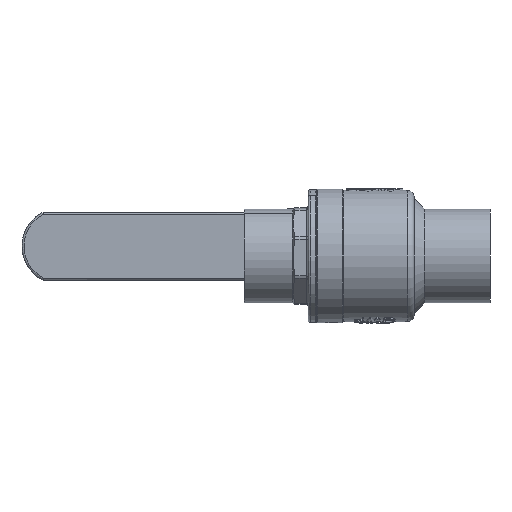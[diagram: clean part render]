
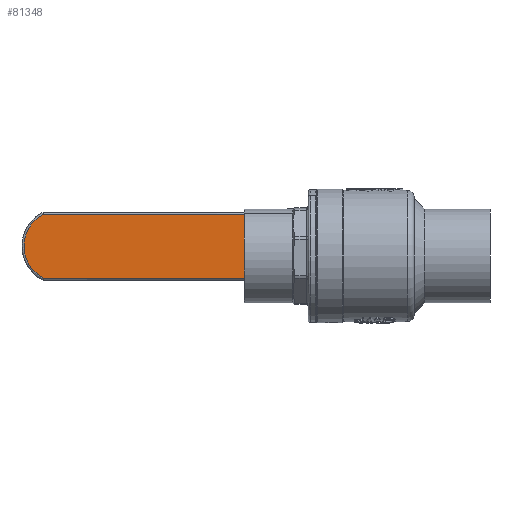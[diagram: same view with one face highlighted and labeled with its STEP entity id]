
A CAD part, front view. The second image highlights one B-rep face of the part: STEP entity #81348.
In plain terms, the highlighted planar face has unit normal (0, -1, 0).
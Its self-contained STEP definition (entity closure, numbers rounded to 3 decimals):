
#372 = LINE ( 'NONE', #114138, #88254 ) ;
#488 = PLANE ( 'NONE',  #64359 ) ;
#2815 = CARTESIAN_POINT ( 'NONE',  ( -115.628, -5., 16.45 ) ) ;
#6201 = LINE ( 'NONE', #100679, #12048 ) ;
#10626 = VERTEX_POINT ( 'NONE', #23178 ) ;
#12048 = VECTOR ( 'NONE', #120826, 1000. ) ;
#15722 = CARTESIAN_POINT ( 'NONE',  ( -115.128, -5., -16.45 ) ) ;
#19306 = CARTESIAN_POINT ( 'NONE',  ( -115.628, -5., 16.45 ) ) ;
#22359 = CIRCLE ( 'NONE', #94146, 18.5 ) ;
#23178 = CARTESIAN_POINT ( 'NONE',  ( -10.036, -5., -16.45 ) ) ;
#23257 = DIRECTION ( 'NONE',  ( -1., 0., 0. ) ) ;
#25514 = LINE ( 'NONE', #2815, #71022 ) ;
#29969 = DIRECTION ( 'NONE',  ( 0., 0., 1. ) ) ;
#30215 = DIRECTION ( 'NONE',  ( 1., 0., 0. ) ) ;
#32758 = ORIENTED_EDGE ( 'NONE', *, *, #96861, .T. ) ;
#32993 = EDGE_CURVE ( 'NONE', #10626, #93374, #22359, .T. ) ;
#51954 = VERTEX_POINT ( 'NONE', #15722 ) ;
#51961 = ORIENTED_EDGE ( 'NONE', *, *, #82984, .T. ) ;
#56514 = ORIENTED_EDGE ( 'NONE', *, *, #32993, .T. ) ;
#64359 = AXIS2_PLACEMENT_3D ( 'NONE', #19306, #120966, #112284 ) ;
#66004 = CARTESIAN_POINT ( 'NONE',  ( -18.5, -5., 0. ) ) ;
#67606 = DIRECTION ( 'NONE',  ( 0., -1., 0. ) ) ;
#71022 = VECTOR ( 'NONE', #23257, 1000. ) ;
#78391 = FACE_OUTER_BOUND ( 'NONE', #116385, .T. ) ;
#81348 = ADVANCED_FACE ( 'NONE', ( #78391 ), #488, .F. ) ;
#82984 = EDGE_CURVE ( 'NONE', #93374, #92162, #25514, .T. ) ;
#88254 = VECTOR ( 'NONE', #30215, 1000. ) ;
#92162 = VERTEX_POINT ( 'NONE', #104399 ) ;
#93374 = VERTEX_POINT ( 'NONE', #121612 ) ;
#94146 = AXIS2_PLACEMENT_3D ( 'NONE', #66004, #67606, #29969 ) ;
#96861 = EDGE_CURVE ( 'NONE', #92162, #51954, #6201, .T. ) ;
#97249 = ORIENTED_EDGE ( 'NONE', *, *, #116100, .T. ) ;
#100679 = CARTESIAN_POINT ( 'NONE',  ( -115.128, -5., 16.45 ) ) ;
#104399 = CARTESIAN_POINT ( 'NONE',  ( -115.128, -5., 16.45 ) ) ;
#112284 = DIRECTION ( 'NONE',  ( 0., 0., 1. ) ) ;
#114138 = CARTESIAN_POINT ( 'NONE',  ( -115.628, -5., -16.45 ) ) ;
#116100 = EDGE_CURVE ( 'NONE', #51954, #10626, #372, .T. ) ;
#116385 = EDGE_LOOP ( 'NONE', ( #51961, #32758, #97249, #56514 ) ) ;
#120826 = DIRECTION ( 'NONE',  ( 0., 0., -1. ) ) ;
#120966 = DIRECTION ( 'NONE',  ( 0., 1., 0. ) ) ;
#121612 = CARTESIAN_POINT ( 'NONE',  ( -10.036, -5., 16.45 ) ) ;
